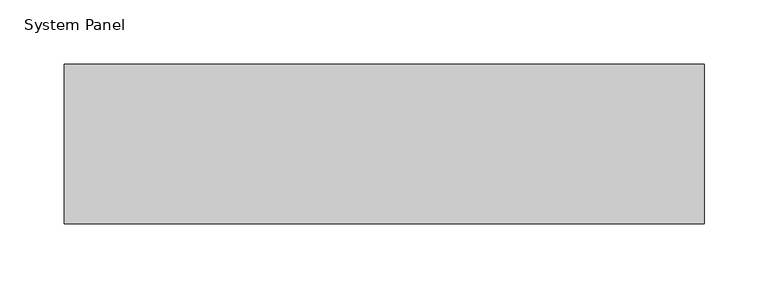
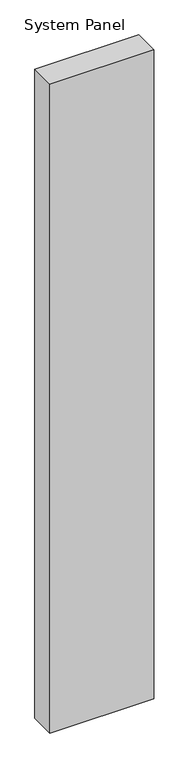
"""IFC4 building model written with IfcOpenShell, lengths in millimetres: plate geometry, System Panel : MetecnoPanel_125mm_Plain_Surfmist."""

from ifc_helpers import new_model, si_unit, origin, origin_with_axes, place, context, project, spatial, polyline, outline, extrude, source, transform, mapped, element, save


def system_panel_03f7c1e1(model_context):
    return source(origin(), model_context, "Body", "SweptSolid", [
        extrude(outline(polyline([(250.0, 0.0), (-250.0, 0.0), (-250.0, 125.0), (250.0, 125.0), (250.0, 0.0)])), origin_with_axes(), (0.0, 0.0, 1.0), 3300.0),
    ])


if __name__ == "__main__":
    model = new_model("IFC4")
    model_context = context("Model", 3, world=origin())
    ifc_project = project(units=[si_unit("LENGTHUNIT", "METRE", prefix="MILLI")], contexts=[model_context])
    site = spatial("IfcSite", under=ifc_project)
    building = spatial("IfcBuilding", under=site)
    placement = place(None, origin())
    system_panel_shape = system_panel_03f7c1e1(model_context)
    element("IfcPlate", 1, ObjectType="System Panel : MetecnoPanel_125mm_Plain_Surfmist", at=placement, inside=building, context=model_context, shape_type="MappedRepresentation", body=[
        mapped(system_panel_shape, transform((0.0, 0.0, 0.0), x_axis=(1.0, 0.0, 0.0), y_axis=(0.0, 1.0, 0.0), z_axis=(0.0, 0.0, 1.0))),
    ])
    save(model, "model.ifc")
